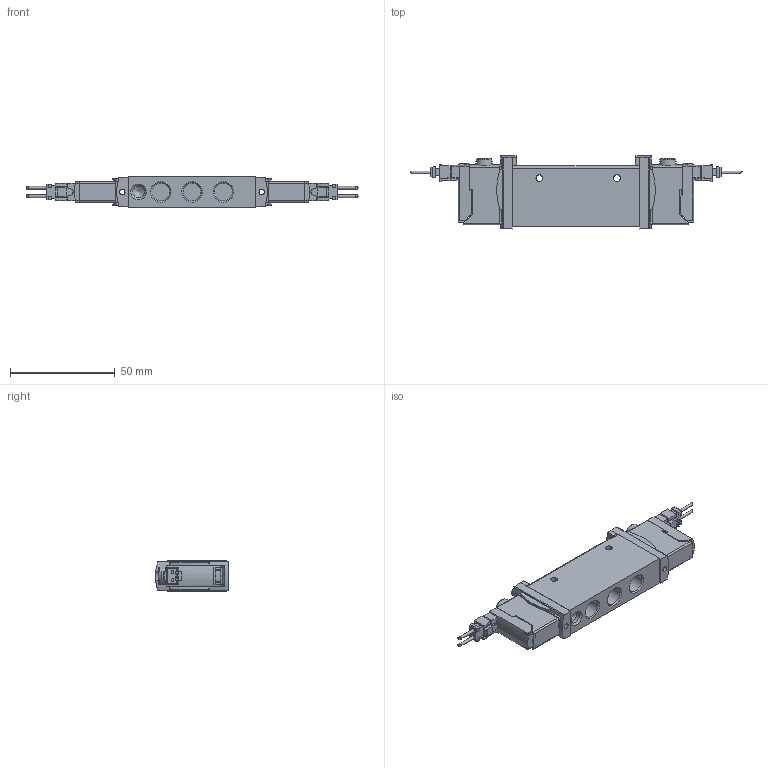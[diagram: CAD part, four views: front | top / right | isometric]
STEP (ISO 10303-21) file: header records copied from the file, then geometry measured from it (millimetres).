
FILE_DESCRIPTION( ( 'STEP AP214' ), '1' );
FILE_NAME( 'C:/Users/thinkpad/Desktop/577319_VUVG-L14-B52-T-G18-1H2L-W1.stp', '2024-10-24T01:15:35', ( 'License CC BY-ND 4.0' ), ( 'CADENAS' ), ' ', 'PARTsolutions', ' ' );
FILE_SCHEMA( ( 'AUTOMOTIVE_DESIGN { 1 0 10303 214 1 1 1 1 }' ) );
Length unit declared in the file: millimetre
Products named in the file (4): 577319 VUVG-L14-B52-T-G18-1H2L-W1; HI_564212 VUVG-L-14-B52---T-G18--1H2--L-W1---(G); _566714 VAVE-L1-1VH2-LP; _566654 NEBV-H1G2-KN-0.5-N-LE2
Assembly tree (5 placements, depth 2):
  577319 VUVG-L14-B52-T-G18-1H2L-W1
    HI_564212 VUVG-L-14-B52---T-G18--1H2--L-W1---(G)
    _566714 VAVE-L1-1VH2-LP  x2
    _566654 NEBV-H1G2-KN-0.5-N-LE2  x2
Bounding box: 158.39 x 34.8 x 14.4 mm (x, y, z)
Volume: 39869.4 mm3; surface area: 16173 mm2
Topology: 5 solids, 5 shells, 958 faces, 2535 edges, 1650 vertices
Faces by surface type: plane 687, cylinder 232, cone 25, torus 12, sphere 2
Full cylindrical faces by diameter (mm): 1.3 x4, 2.6 x2, 3.2 x2, 3.8 x2, 3.9 x2, 5.6 x1, 8.1 x2, 8.566 x5
Entity records: 26705 total; most frequent: CARTESIAN_POINT 4314, ORIENTED_EDGE 3506, DIRECTION 3465, EDGE_CURVE 1753, LINE 1225, VECTOR 1225, VERTEX_POINT 1161, AXIS2_PLACEMENT_3D 1120
